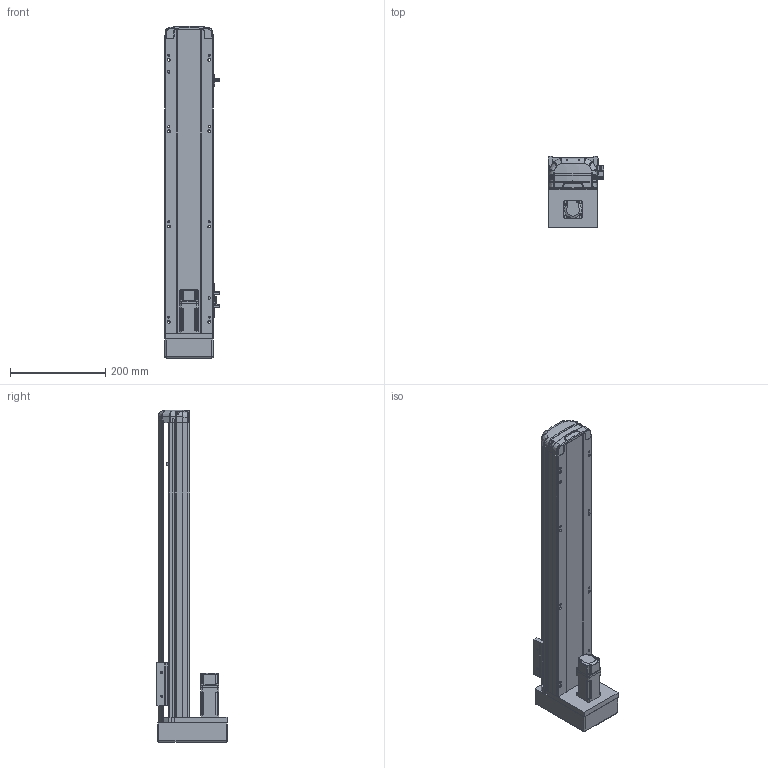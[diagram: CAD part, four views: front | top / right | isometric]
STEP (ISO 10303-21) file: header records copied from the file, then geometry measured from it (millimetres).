
FILE_DESCRIPTION (( 'STEP AP214' ), '1' );
FILE_NAME ('RTH10-XX-450-M-M10-C4.STEP', '2025-10-25T05:44:50', ( 'Microsoft' ), ( 'Microsoft' ), 'SwSTEP 2.0', 'SolidWorks 2018', '' );
FILE_SCHEMA (( 'AUTOMOTIVE_DESIGN' ));
Length unit declared in the file: millimetre
Products named in the file (10): N_P10^RTH10-XX-100-M-M10-C4; N_RTH12-M-008-萇儂啣^RTH10-XX-100-M-M10-C4; N_RTH12-GY-004-賑釱^RTH10-XX-100-M-M10-C4; N_OMRON EE-SX672 传感器^RTH10-XX-100-M-M10-C4; RTH10-XX-450-M-M10-C4; N_RTH13-L-012覜茼え俋离^RTH10-XX-100-M-M10-C4; N_RTH12-M-007P-奻裔^RTH10-XX-100-M-M10-C4; N_RTH12-M-011P-臏倰第菁釱^RTH10-XX-100-M-M10-C4; N_RTH12-GY-001P^RTH10-XX-100-M-M10-C4; N_RTH12-M-018-裔赽^RTH10-XX-100-M-M10-C4
Assembly tree (11 placements, depth 2):
  RTH10-XX-450-M-M10-C4
    N_RTH12-M-011P-臏倰第菁釱^RTH10-XX-100-M-M10-C4
    N_RTH13-L-012覜茼え俋离^RTH10-XX-100-M-M10-C4
    N_OMRON EE-SX672 传感器^RTH10-XX-100-M-M10-C4  x3
    N_P10^RTH10-XX-100-M-M10-C4
    N_RTH12-M-007P-奻裔^RTH10-XX-100-M-M10-C4
    N_RTH12-M-008-萇儂啣^RTH10-XX-100-M-M10-C4
    N_RTH12-M-018-裔赽^RTH10-XX-100-M-M10-C4
    N_RTH12-GY-004-賑釱^RTH10-XX-100-M-M10-C4
    N_RTH12-GY-001P^RTH10-XX-100-M-M10-C4
Bounding box: 116.5 x 149 x 697.14 mm (x, y, z)
Volume: 3392974.8 mm3; surface area: 516235 mm2
Topology: 10 solids, 12 shells, 1913 faces, 5329 edges, 3495 vertices
Faces by surface type: plane 951, bspline 472, cylinder 455, cone 29, sphere 4, torus 2
Entity records: 57365 total; most frequent: CARTESIAN_POINT 22947, ORIENTED_EDGE 7730, DIRECTION 5907, EDGE_CURVE 3871, VERTEX_POINT 2539, VECTOR 2045, LINE 2045, AXIS2_PLACEMENT_3D 1931
